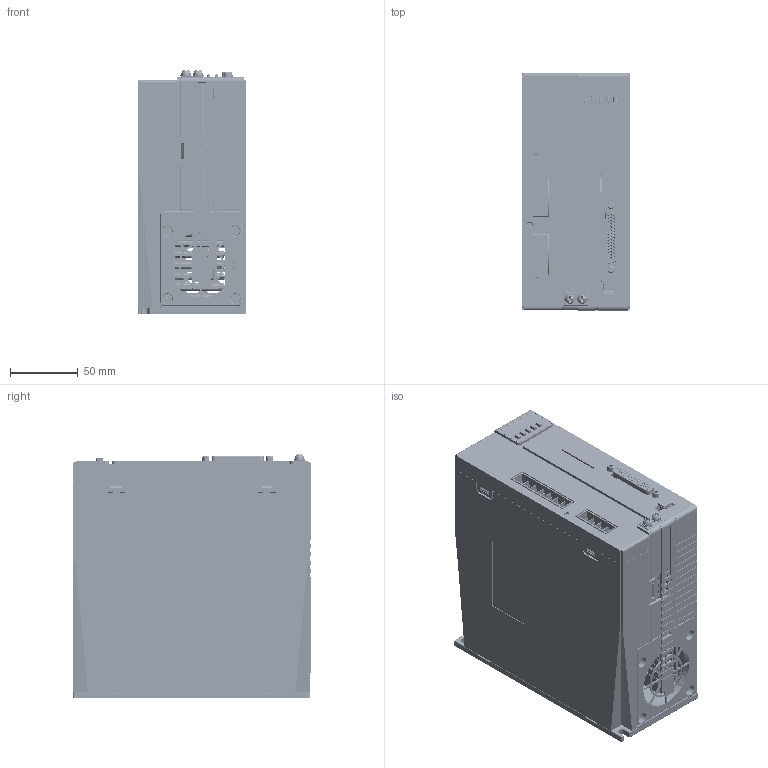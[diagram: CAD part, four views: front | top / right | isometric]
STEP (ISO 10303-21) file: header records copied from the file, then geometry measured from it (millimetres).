
FILE_DESCRIPTION((''),'2;1');
FILE_NAME('ASM_L7_2000_ASM_ASM','2020-07-22T',('sunjun'),(''),'PRO/ENGINEER BY PARAMETRIC TECHNOLOGY CORPORATION, 2008090','PRO/ENGINEER BY PARAMETRIC TECHNOLOGY CORPORATION, 2008090','');
FILE_SCHEMA(('CONFIG_CONTROL_DESIGN'));
Products named in the file (1): ASM_L7_2000_ASM_ASM
Bounding box: 80 x 175.5 x 180.53 mm (x, y, z)
Volume: 938191.8 mm3; surface area: 558947.7 mm2
Topology: 4 solids, 23 shells, 7734 faces, 22058 edges, 14109 vertices
Faces by surface type: plane 5004, cylinder 1928, torus 281, sphere 269, cone 125, bspline 104, extrusion 23
Entity records: 255051 total; most frequent: CARTESIAN_POINT 52455, ORIENTED_EDGE 43602, DIRECTION 40581, EDGE_CURVE 21801, VECTOR 15883, LINE 15860, VERTEX_POINT 14109, AXIS2_PLACEMENT_3D 12349
